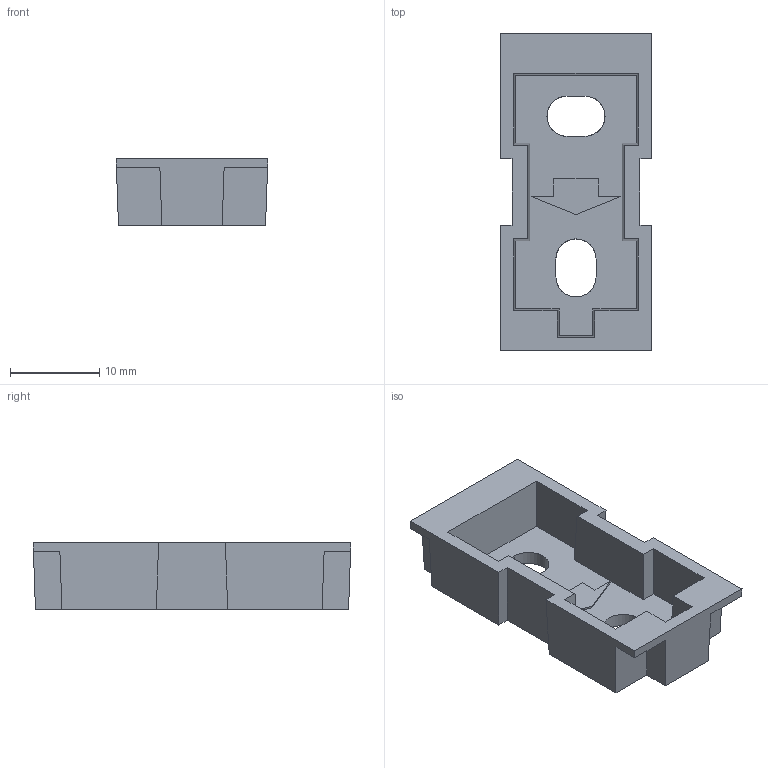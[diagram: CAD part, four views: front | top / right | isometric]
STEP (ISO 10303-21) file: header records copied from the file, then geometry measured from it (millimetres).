
FILE_DESCRIPTION(('STEP AP214'),'2;1');
FILE_NAME('120785_020-01_supporto.stp','2011-02-14T09:24:47',(''),(''),'2007.1.106','THINKDESIGN','');
FILE_SCHEMA(('AUTOMOTIVE_DESIGN'));
Length unit declared in the file: millimetre
Products named in the file (1): None
Bounding box: 17 x 35.6 x 7.5 mm (x, y, z)
Surface area: 2488.2 mm2 (no closed solid volume)
Topology: 0 solids, 0 shells, 62 faces, 350 edges, 350 vertices
Faces by surface type: plane 58, cylinder 4
Entity records: 3483 total; most frequent: CARTESIAN_POINT 804, DIRECTION 474, COMPOSITE_CURVE_SEGMENT 350, TRIMMED_CURVE 342, VECTOR 334, LINE 334, AXIS2_PLACEMENT_3D 70, OUTER_BOUNDARY_CURVE 62
